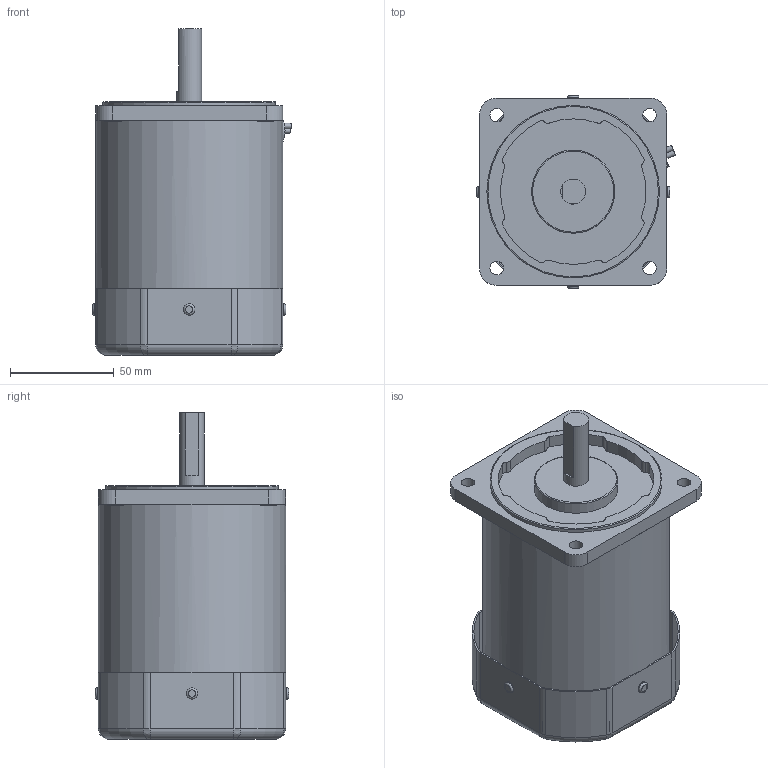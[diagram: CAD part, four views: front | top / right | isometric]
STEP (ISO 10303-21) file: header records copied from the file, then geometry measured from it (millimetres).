
FILE_DESCRIPTION((''),'2;1');
FILE_NAME('E:\2공장-도면\3D\표준형 3D(민규)\step file\표준\K9IS60Fㅁ.stp','2014-11-13T17:44:53',('AHN'),(''),'Autodesk Inventor 2012','Autodesk Inventor 2012','');
FILE_SCHEMA(('CONFIG_CONTROL_DESIGN'));
Length unit declared in the file: millimetre
Products named in the file (1): K9IS60Fㅁ
Bounding box: 95.71 x 93 x 157 mm (x, y, z)
Volume: 683310.5 mm3; surface area: 78731.4 mm2
Topology: 1 solids, 7 shells, 262 faces, 615 edges, 367 vertices
Faces by surface type: cylinder 131, plane 77, torus 46, bspline 8
Full cylindrical faces by diameter (mm): 5.5 x4, 6.5 x4, 8 x4, 12 x1, 40 x1, 83 x1, 90 x1
Entity records: 8264 total; most frequent: CARTESIAN_POINT 2253, DIRECTION 1301, ORIENTED_EDGE 1178, EDGE_CURVE 589, AXIS2_PLACEMENT_3D 522, VERTEX_POINT 363, EDGE_LOOP 329, CIRCLE 267
